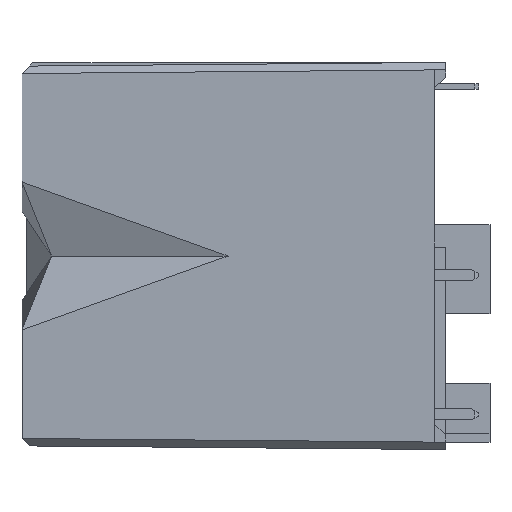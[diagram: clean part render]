
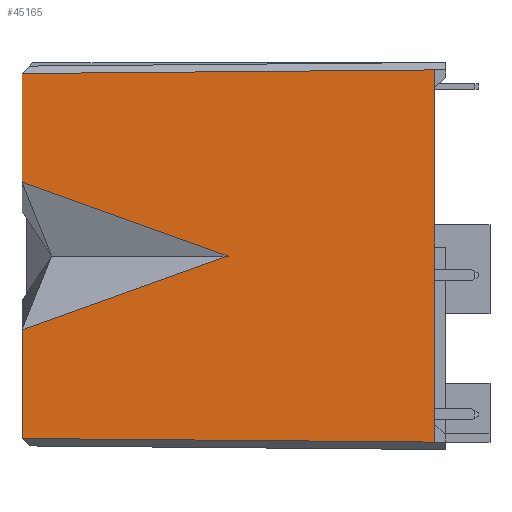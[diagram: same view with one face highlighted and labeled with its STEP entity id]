
A CAD part, left-side view. The second image highlights one B-rep face of the part: STEP entity #45165.
In plain terms, the highlighted planar face has unit normal (-1, 0.009, 0).
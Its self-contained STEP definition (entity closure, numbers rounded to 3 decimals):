
#525=B_SPLINE_CURVE_WITH_KNOTS('',3,(#65619,#65620,#65621,#65622),
 .UNSPECIFIED.,.F.,.F.,(4,4),(0.,1.),.UNSPECIFIED.);
#2812=LINE('',#65632,#6516);
#2814=LINE('',#65636,#6518);
#2816=LINE('',#65640,#6520);
#2818=LINE('',#65644,#6522);
#2819=LINE('',#65646,#6523);
#2823=LINE('',#65654,#6527);
#2826=LINE('',#65662,#6530);
#2831=LINE('',#65673,#6535);
#2835=LINE('',#65681,#6539);
#3281=LINE('',#66644,#6985);
#6516=VECTOR('',#53016,1000.);
#6518=VECTOR('',#53020,1000.);
#6520=VECTOR('',#53024,1000.);
#6522=VECTOR('',#53028,1000.);
#6523=VECTOR('',#53031,1000.);
#6527=VECTOR('',#53037,1000.);
#6530=VECTOR('',#53044,1000.);
#6535=VECTOR('',#53053,1000.);
#6539=VECTOR('',#53059,1000.);
#6985=VECTOR('',#53925,1000.);
#14867=ORIENTED_EDGE('',*,*,#20692,.F.);
#14868=ORIENTED_EDGE('',*,*,#20688,.T.);
#14869=ORIENTED_EDGE('',*,*,#21184,.T.);
#14870=ORIENTED_EDGE('',*,*,#20698,.T.);
#14871=ORIENTED_EDGE('',*,*,#20702,.F.);
#14872=ORIENTED_EDGE('',*,*,#20684,.T.);
#14873=ORIENTED_EDGE('',*,*,#20683,.F.);
#14874=ORIENTED_EDGE('',*,*,#20681,.F.);
#14875=ORIENTED_EDGE('',*,*,#20679,.F.);
#14876=ORIENTED_EDGE('',*,*,#20677,.F.);
#14877=ORIENTED_EDGE('',*,*,#20673,.T.);
#20673=EDGE_CURVE('',#24453,#24447,#525,.F.);
#20677=EDGE_CURVE('',#24453,#24454,#2812,.T.);
#20679=EDGE_CURVE('',#24454,#24455,#2814,.T.);
#20681=EDGE_CURVE('',#24455,#24456,#2816,.T.);
#20683=EDGE_CURVE('',#24456,#24457,#2818,.T.);
#20684=EDGE_CURVE('',#24458,#24457,#2819,.T.);
#20688=EDGE_CURVE('',#24461,#24460,#2823,.T.);
#20692=EDGE_CURVE('',#24461,#24447,#2826,.T.);
#20698=EDGE_CURVE('',#24468,#24467,#2831,.T.);
#20702=EDGE_CURVE('',#24458,#24467,#2835,.T.);
#21184=EDGE_CURVE('',#24460,#24468,#3281,.T.);
#24447=VERTEX_POINT('',#65605);
#24453=VERTEX_POINT('',#65623);
#24454=VERTEX_POINT('',#65631);
#24455=VERTEX_POINT('',#65635);
#24456=VERTEX_POINT('',#65639);
#24457=VERTEX_POINT('',#65643);
#24458=VERTEX_POINT('',#65647);
#24460=VERTEX_POINT('',#65653);
#24461=VERTEX_POINT('',#65655);
#24467=VERTEX_POINT('',#65672);
#24468=VERTEX_POINT('',#65674);
#27511=EDGE_LOOP('',(#14867,#14868,#14869,#14870,#14871,#14872,#14873,#14874,
#14875,#14876,#14877));
#29481=FACE_BOUND('',#27511,.T.);
#31011=PLANE('',#47325);
#45165=ADVANCED_FACE('',(#29481),#31011,.T.);
#47325=AXIS2_PLACEMENT_3D('',#66643,#53923,#53924);
#53016=DIRECTION('',(-0.004,-0.414,0.91));
#53020=DIRECTION('',(-0.008,-0.941,0.337));
#53024=DIRECTION('',(0.008,0.941,0.337));
#53028=DIRECTION('',(0.004,0.414,0.91));
#53031=DIRECTION('',(0.,0.,-1.));
#53037=DIRECTION('',(0.,0.,1.));
#53044=DIRECTION('',(0.009,1.,0.009));
#53053=DIRECTION('',(0.,0.,1.));
#53059=DIRECTION('',(-0.009,-1.,0.009));
#53923=DIRECTION('',(-1.,0.009,0.));
#53924=DIRECTION('',(0.,0.,-1.));
#53925=DIRECTION('',(0.,0.,1.));
#65605=CARTESIAN_POINT('',(-37.611,52.25,-4.011));
#65619=CARTESIAN_POINT('',(-37.611,52.25,-4.011));
#65620=CARTESIAN_POINT('',(-37.611,52.25,0.895));
#65621=CARTESIAN_POINT('',(-37.611,52.25,5.801));
#65622=CARTESIAN_POINT('',(-37.611,52.25,10.707));
#65623=CARTESIAN_POINT('',(-37.611,52.25,10.707));
#65631=CARTESIAN_POINT('',(-37.611,52.234,10.742));
#65632=CARTESIAN_POINT('',(-37.561,57.983,-1.908));
#65635=CARTESIAN_POINT('',(-37.855,24.297,20.75));
#65636=CARTESIAN_POINT('',(-37.569,57.097,8.999));
#65639=CARTESIAN_POINT('',(-37.611,52.234,30.758));
#65640=CARTESIAN_POINT('',(-37.709,41.058,26.755));
#65643=CARTESIAN_POINT('',(-37.611,52.25,30.793));
#65644=CARTESIAN_POINT('',(-37.727,38.953,1.537));
#65646=CARTESIAN_POINT('',(-37.611,52.25,23.949));
#65647=CARTESIAN_POINT('',(-37.611,52.25,45.511));
#65653=CARTESIAN_POINT('',(-38.1,-3.75,-2.05));
#65654=CARTESIAN_POINT('',(-38.1,-3.75,-4.5));
#65655=CARTESIAN_POINT('',(-38.1,-3.75,-4.5));
#65662=CARTESIAN_POINT('',(-37.611,52.254,-4.011));
#65672=CARTESIAN_POINT('',(-38.1,-3.75,46.));
#65673=CARTESIAN_POINT('',(-38.1,-3.75,-3.5));
#65674=CARTESIAN_POINT('',(-38.1,-3.75,43.55));
#65681=CARTESIAN_POINT('',(-37.607,52.694,45.507));
#66643=CARTESIAN_POINT('',(-37.611,52.258,-4.51));
#66644=CARTESIAN_POINT('',(-38.1,-3.75,-3.5));
